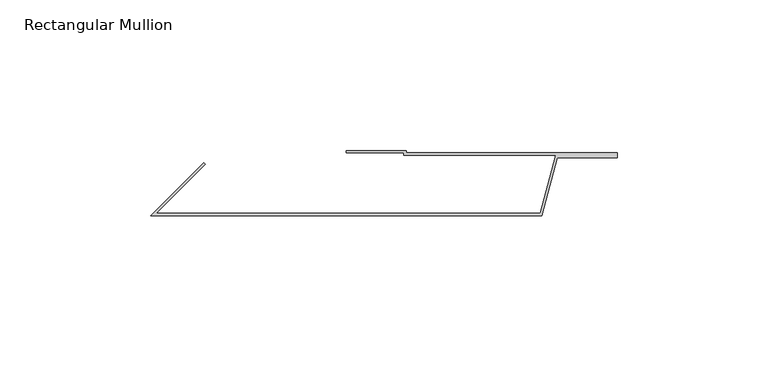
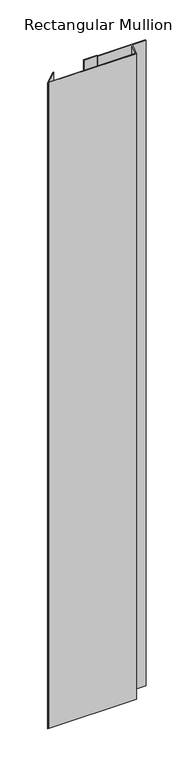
"""IFC4 building model written with IfcOpenShell, lengths in millimetres: member geometry, Rectangular Mullion : TE-V-01_02_Joint flashing."""

from ifc_helpers import new_model, si_unit, frame, origin, place, context, project, spatial, polyline, outline, extrude, source, transform, mapped, element, save


def rectangular_mullion_00074b12(model_context):
    return source(origin(), model_context, "Body", "SweptSolid", [
        extrude(outline(polyline([(0.0, 0.0), (0.0, -0.8), (70.1186468, -0.8), (70.1186468, -2.4), (50.1763809, -2.4), (45.0, -21.7185165), (-85.0, -21.7185165), (-67.3223305, -4.040847), (-66.756645, -4.6065324), (-83.0686292, -20.9185165), (44.3861384, -20.9185165), (49.5625193, -1.6), (-0.8, -1.6), (-0.8, -0.8), (-20.0, -0.8), (-20.0, 0.0), (0.0, 0.0)])), frame((0.0, 0.0, -999.9999997), z_axis=(0.0, 0.0, 1.0), x_axis=(1.0, 0.0, 0.0)), (0.0, 0.0, 1.0), 999.9999997),
    ])


if __name__ == "__main__":
    model = new_model("IFC4")
    model_context = context("Model", 3, world=origin())
    ifc_project = project(units=[si_unit("LENGTHUNIT", "METRE", prefix="MILLI")], contexts=[model_context])
    site = spatial("IfcSite", under=ifc_project)
    building = spatial("IfcBuilding", under=site)
    placement = place(None, origin())
    rectangular_mullion_shape = rectangular_mullion_00074b12(model_context)
    element("IfcMember", 1, ObjectType="Rectangular Mullion : TE-V-01_02_Joint flashing", at=placement, inside=building, context=model_context, shape_type="MappedRepresentation", body=[
        mapped(rectangular_mullion_shape, transform((0.0, 0.0, 0.0), x_axis=(1.0, 0.0, 0.0), y_axis=(0.0, 1.0, 0.0), z_axis=(0.0, 0.0, 1.0))),
    ])
    save(model, "model.ifc")
